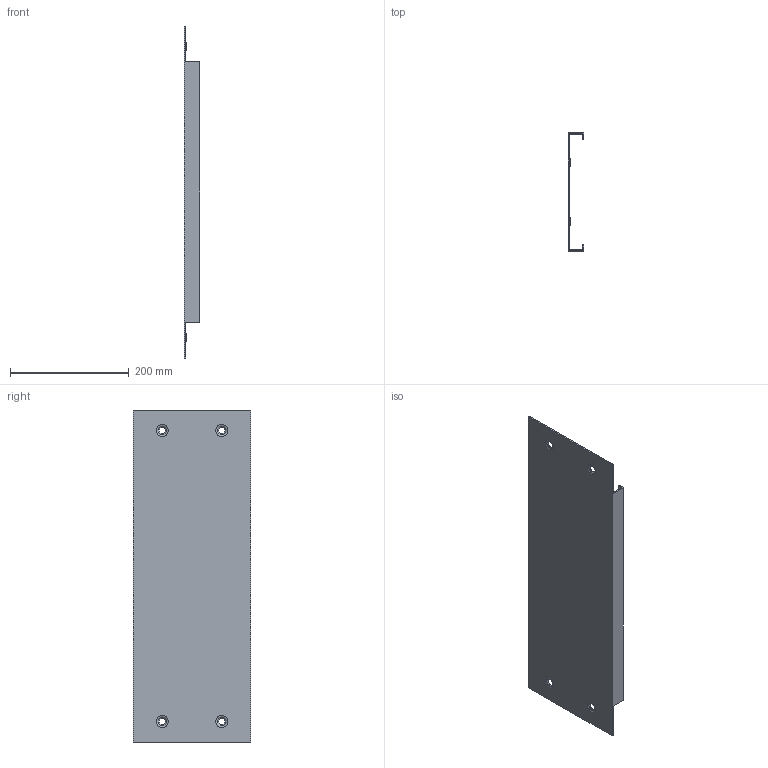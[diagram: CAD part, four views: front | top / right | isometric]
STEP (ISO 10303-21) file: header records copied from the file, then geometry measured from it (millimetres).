
FILE_DESCRIPTION( ( 'STEP AP214' ), '1' );
FILE_NAME( 'p:/temp/worker_203/temp/exporttempdir_4980_85_kKezS/format_0/PS2060(0).stp', '2021-03-16T11:33:49', ( 'License CC BY-ND 4.0' ), ( 'CADENAS' ), ' ', 'PARTsolutions', ' ' );
FILE_SCHEMA( ( 'AUTOMOTIVE_DESIGN { 1 0 10303 214 1 1 1 1 }' ) );
Length unit declared in the file: millimetre
Products named in the file (1): _PS2060(0)
Bounding box: 26.5 x 198 x 558 mm (x, y, z)
Volume: 209608.9 mm3; surface area: 282171.6 mm2
Topology: 1 solids, 1 shells, 42 faces, 104 edges, 64 vertices
Faces by surface type: plane 22, cone 12, torus 8
Entity records: 1492 total; most frequent: DIRECTION 194, CARTESIAN_POINT 191, ORIENTED_EDGE 168, EDGE_CURVE 84, EDGE_LOOP 70, AXIS2_PLACEMENT_3D 67, VERTEX_POINT 64, LINE 60
